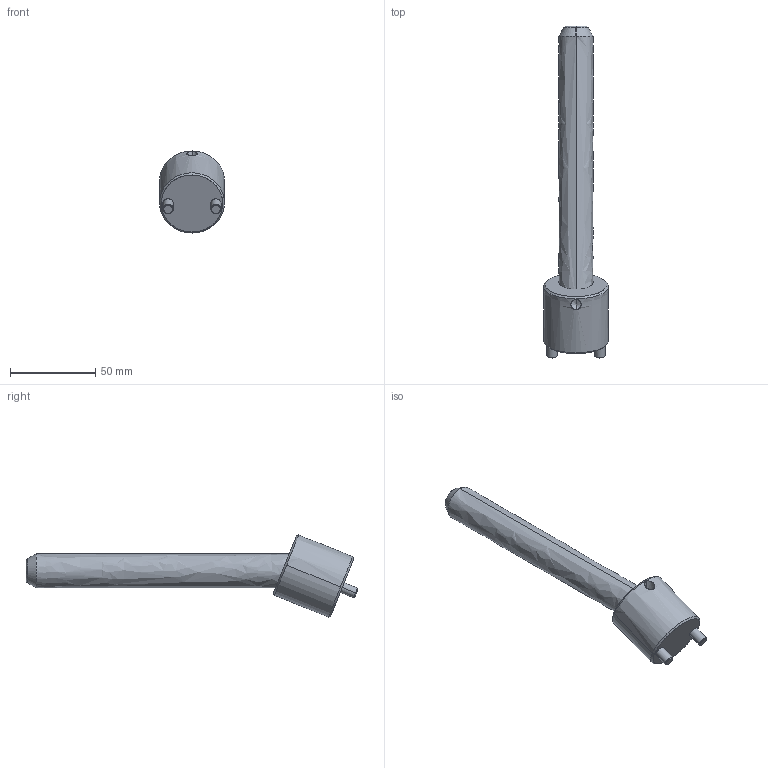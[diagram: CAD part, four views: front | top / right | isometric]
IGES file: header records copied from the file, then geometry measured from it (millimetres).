
Start section: START RECORD GO HERE.
Global section: file name: CI2220150.igs; native system: DASSAULT SYSTEMES CATIA V5 R20 - www.3ds.com; preprocessor: CATIA Version 5 Release 20 ; author: r.borello; organization: CFTORINO; date: 20190624.085041; units: millimetre
Bounding box: 38 x 194.16 x 47.97 mm (x, y, z)
Surface area: 20545.6 mm2 (no closed solid volume)
Topology: 0 solids, 0 shells, 39 faces, 162 edges, 160 vertices
Faces by surface type: revolution 32, plane 7
